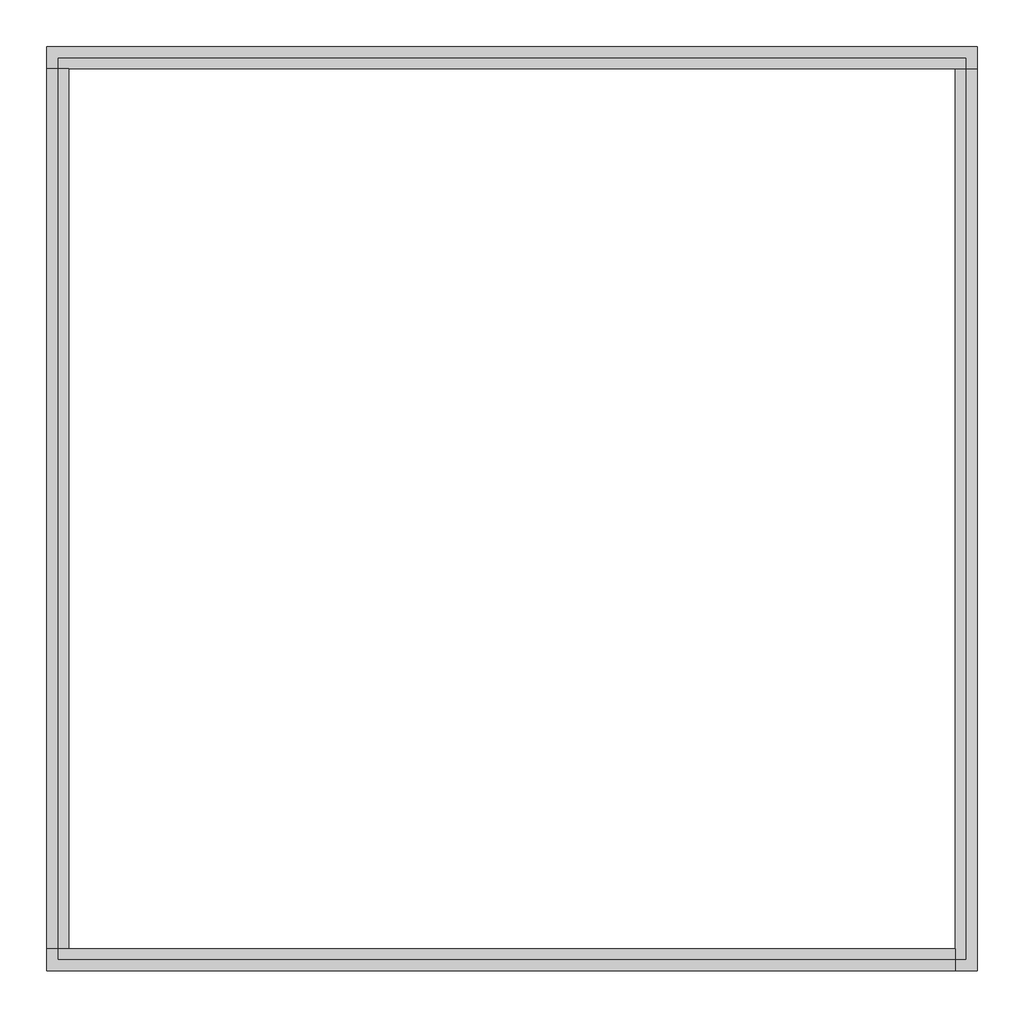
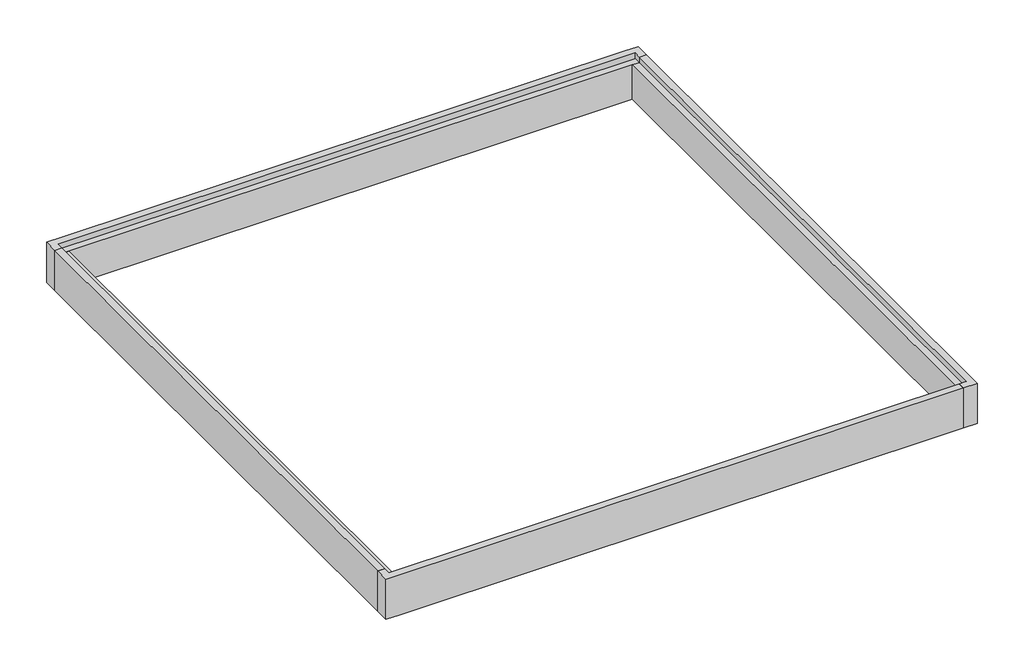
# One storey: 4 beams.
"""IFC4 building model written with IfcOpenShell, lengths in millimetres."""

from ifc_helpers import new_model, si_unit, frame, origin, place, context, project, spatial, polyline, outline, extrude, faceted_brep, element, save

model = new_model("IFC4")

# Units and contexts
model_context = context("Model", 3, world=origin())
ifc_project = project(units=[si_unit("LENGTHUNIT", "METRE", prefix="MILLI")], contexts=[model_context])

# Site, building, storey
site = spatial("IfcSite", under=ifc_project)
building = spatial("IfcBuilding", under=site)
storey = spatial("IfcBuildingStorey", under=building, Name="T.O. Column", Elevation=2743.2)

# Beams
placement = place(None, origin())
element("IfcBeam", 1, ObjectType="Concrete-Rectangular Beam : 12 x 24", at=placement, inside=storey, context=model_context, shape_type="Brep", body=[
    faceted_brep([(-10043.0983314, 11129.3050815, 3657.6), (-10043.0983314, 11434.1050815, 3657.6), (-10347.8983314, 11434.1050815, 3657.6), (-22484.7920692, 11434.1050815, 3657.6), (-22789.5920692, 11434.1050815, 3657.6), (-22789.5920692, 11129.3050815, 3657.6), (-22637.1920692, 11129.3050815, 3657.6), (-22637.1920692, 11281.7050815, 3657.6), (-10195.4983314, 11281.7050815, 3657.6), (-10195.4983314, 11129.3050815, 3657.6), (-10043.0983314, 11129.3050815, 2743.2), (-10195.4983314, 11129.3050815, 3530.6), (-10347.8983314, 11129.3050815, 3530.6), (-22484.7920692, 11129.3050815, 3530.6), (-22637.1920692, 11129.3050815, 3530.6), (-22789.5920692, 11129.3050815, 2743.2), (-22484.7920692, 11129.3050815, 2743.2), (-10347.8983314, 11129.3050815, 2743.2), (-10043.0983314, 11434.1050815, 2743.2), (-22789.5920692, 11434.1050815, 2743.2), (-22484.7920692, 11434.1050815, 2743.2), (-10347.8983314, 11434.1050815, 2743.2), (-10195.4983314, 11281.7050815, 3530.6), (-22637.1920692, 11281.7050815, 3530.6)], [[[0, 1, 2, 3, 4, 5, 6, 7, 8, 9]], [[10, 0, 9, 11, 12, 13, 14, 6, 5, 15, 16, 17]], [[18, 10, 17, 16, 15, 19, 20, 21]], [[1, 18, 21, 20, 19, 4, 3, 2]], [[1, 0, 10, 18]], [[5, 4, 19, 15]], [[22, 23, 14, 13, 12, 11]], [[8, 22, 11, 9]], [[23, 7, 6, 14]], [[23, 22, 8, 7]]]),
])
element("IfcBeam", 2, ObjectType="Concrete-Rectangular Beam : 12 x 24", at=placement, inside=storey, context=model_context, shape_type="Brep", body=[
    faceted_brep([(-10347.8983314, -1230.535408, 3657.6), (-10043.0983314, -1230.535408, 3657.6), (-10043.0983314, 11129.3050815, 3657.6), (-10195.4983314, 11129.3050815, 3657.6), (-10195.4983314, -1078.135408, 3657.6), (-10347.8983314, -1078.135408, 3657.6), (-10347.8983314, -1230.535408, 2743.2), (-10347.8983314, -1078.135408, 3530.6), (-10347.8983314, -925.735408, 3530.6), (-10347.8983314, 11129.3050815, 3530.6), (-10347.8983314, 11129.3050815, 2743.2), (-10347.8983314, -925.735408, 2743.2), (-10043.0983314, 11129.3050815, 2743.2), (-10043.0983314, -925.735408, 2743.2), (-10043.0983314, -1230.535408, 2743.2), (-10195.4983314, 11129.3050815, 3530.6), (-10195.4983314, -1078.135408, 3530.6)], [[[0, 1, 2, 3, 4, 5]], [[6, 0, 5, 7, 8, 9, 10, 11]], [[10, 12, 13, 14, 6, 11]], [[12, 2, 1, 14, 13]], [[12, 10, 9, 15, 3, 2]], [[1, 0, 6, 14]], [[7, 16, 15, 9, 8]], [[16, 4, 3, 15]], [[4, 16, 7, 5]]]),
])
element("IfcBeam", 3, ObjectType="Concrete-Rectangular Beam : 12 x 24", at=placement, inside=storey, context=model_context, shape_type="Brep", body=[
    faceted_brep([(-22789.5920692, -925.735408, 3657.6), (-22789.5920692, -1230.535408, 3657.6), (-10347.8983314, -1230.535408, 3657.6), (-10347.8983314, -1078.135408, 3657.6), (-22637.1920692, -1078.135408, 3657.6), (-22637.1920692, -925.735408, 3657.6), (-22789.5920692, -925.735408, 2743.2), (-22637.1920692, -925.735408, 3530.6), (-22484.7920692, -925.735408, 3530.6), (-10347.8983314, -925.735408, 3530.6), (-10347.8983314, -925.735408, 2743.2), (-22484.7920692, -925.735408, 2743.2), (-22789.5920692, -1230.535408, 2743.2), (-10347.8983314, -1230.535408, 2743.2), (-22484.7920692, -1230.535408, 2743.2), (-10347.8983314, -1078.135408, 3530.6), (-22637.1920692, -1078.135408, 3530.6)], [[[0, 1, 2, 3, 4, 5]], [[6, 0, 5, 7, 8, 9, 10, 11]], [[12, 6, 11, 10, 13, 14]], [[1, 12, 14, 13, 2]], [[1, 0, 6, 12]], [[13, 10, 9, 15, 3, 2]], [[7, 16, 15, 9, 8]], [[16, 4, 3, 15]], [[4, 16, 7, 5]]]),
])
element("IfcBeam", 4, ObjectType="Concrete-Rectangular Beam : 18 x 36", at=placement, inside=storey, context=model_context, shape_type="SweptSolid", body=[
    extrude(outline(polyline([(2743.2, -22789.5920692), (2743.2, -22484.7920692), (3530.6, -22484.7920692), (3530.6, -22637.1920692), (3657.6, -22637.1920692), (3657.6, -22789.5920692), (2743.2, -22789.5920692)])), frame((0.0, -925.735408, 0.0), z_axis=(0.0, 1.0, 0.0), x_axis=(0.0, 0.0, 1.0)), (0.0, 0.0, 1.0), 12055.0404896),
])

save(model, "model.ifc")
